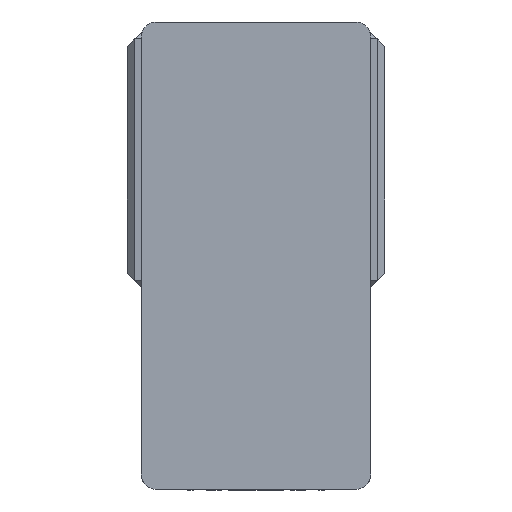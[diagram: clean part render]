
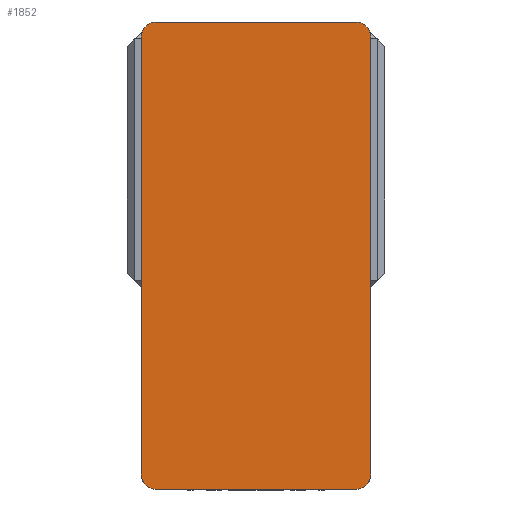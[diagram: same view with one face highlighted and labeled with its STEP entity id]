
A CAD part, left-side view. The second image highlights one B-rep face of the part: STEP entity #1852.
In plain terms, the highlighted planar face has unit normal (-1, 0, 0) as drawn and (0, 0, 1) by its records, which use the part's own axes.
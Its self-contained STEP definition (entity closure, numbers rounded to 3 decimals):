
#19 = CARTESIAN_POINT ( 'NONE',  ( -75., 152.5, 105. ) ) ;
#379 = CARTESIAN_POINT ( 'NONE',  ( 75., -142.5, 105. ) ) ;
#594 = DIRECTION ( 'NONE',  ( 0., 0., 1. ) ) ;
#654 = EDGE_CURVE ( 'NONE', #1589, #4605, #9326, .T. ) ;
#698 = DIRECTION ( 'NONE',  ( 0., 0., 1. ) ) ;
#742 = CARTESIAN_POINT ( 'NONE',  ( 65., 142.5, 105. ) ) ;
#842 = DIRECTION ( 'NONE',  ( 0., 0., 1. ) ) ;
#905 = VERTEX_POINT ( 'NONE', #3144 ) ;
#946 = VERTEX_POINT ( 'NONE', #2362 ) ;
#1219 = VERTEX_POINT ( 'NONE', #4891 ) ;
#1444 = EDGE_CURVE ( 'NONE', #905, #8493, #6843, .T. ) ;
#1509 = CARTESIAN_POINT ( 'NONE',  ( -65., -142.5, 105. ) ) ;
#1582 = DIRECTION ( 'NONE',  ( 1., 0., 0. ) ) ;
#1589 = VERTEX_POINT ( 'NONE', #8714 ) ;
#1609 = DIRECTION ( 'NONE',  ( 1., 0., 0. ) ) ;
#1678 = VECTOR ( 'NONE', #9096, 1000. ) ;
#1710 = ORIENTED_EDGE ( 'NONE', *, *, #8515, .T. ) ;
#1852 = ADVANCED_FACE ( 'NONE', ( #2413 ), #2583, .T. ) ;
#1997 = VERTEX_POINT ( 'NONE', #379 ) ;
#2270 = EDGE_CURVE ( 'NONE', #8493, #1589, #6817, .T. ) ;
#2356 = CARTESIAN_POINT ( 'NONE',  ( -75., -152.5, 105. ) ) ;
#2362 = CARTESIAN_POINT ( 'NONE',  ( 65., 152.5, 105. ) ) ;
#2393 = EDGE_CURVE ( 'NONE', #1219, #1997, #4787, .T. ) ;
#2413 = FACE_OUTER_BOUND ( 'NONE', #8983, .T. ) ;
#2579 = VECTOR ( 'NONE', #2905, 1000. ) ;
#2583 = PLANE ( 'NONE',  #6191 ) ;
#2905 = DIRECTION ( 'NONE',  ( 0., -1., 0. ) ) ;
#3144 = CARTESIAN_POINT ( 'NONE',  ( -65., 152.5, 105. ) ) ;
#3355 = EDGE_CURVE ( 'NONE', #6807, #946, #9289, .T. ) ;
#3368 = CARTESIAN_POINT ( 'NONE',  ( -75., 142.5, 105. ) ) ;
#3448 = CARTESIAN_POINT ( 'NONE',  ( -65., -152.5, 105. ) ) ;
#3670 = ORIENTED_EDGE ( 'NONE', *, *, #1444, .T. ) ;
#4066 = DIRECTION ( 'NONE',  ( 1., 0., 0. ) ) ;
#4173 = CARTESIAN_POINT ( 'NONE',  ( 75., 152.5, 105. ) ) ;
#4241 = AXIS2_PLACEMENT_3D ( 'NONE', #742, #6538, #1582 ) ;
#4315 = CARTESIAN_POINT ( 'NONE',  ( -65., 142.5, 105. ) ) ;
#4430 = EDGE_CURVE ( 'NONE', #4605, #1219, #9734, .T. ) ;
#4546 = VECTOR ( 'NONE', #9127, 1000. ) ;
#4599 = CARTESIAN_POINT ( 'NONE',  ( -75., 152.5, 105. ) ) ;
#4605 = VERTEX_POINT ( 'NONE', #3448 ) ;
#4763 = EDGE_CURVE ( 'NONE', #1997, #6807, #8293, .T. ) ;
#4787 = CIRCLE ( 'NONE', #5614, 10. ) ;
#4891 = CARTESIAN_POINT ( 'NONE',  ( 65., -152.5, 105. ) ) ;
#4979 = ORIENTED_EDGE ( 'NONE', *, *, #654, .T. ) ;
#5402 = ORIENTED_EDGE ( 'NONE', *, *, #4763, .T. ) ;
#5592 = CARTESIAN_POINT ( 'NONE',  ( 65., -142.5, 105. ) ) ;
#5614 = AXIS2_PLACEMENT_3D ( 'NONE', #5592, #594, #6390 ) ;
#5627 = DIRECTION ( 'NONE',  ( 1., 0., 0. ) ) ;
#6191 = AXIS2_PLACEMENT_3D ( 'NONE', #8356, #698, #6691 ) ;
#6317 = ORIENTED_EDGE ( 'NONE', *, *, #2393, .T. ) ;
#6390 = DIRECTION ( 'NONE',  ( 1., 0., 0. ) ) ;
#6538 = DIRECTION ( 'NONE',  ( 0., 0., 1. ) ) ;
#6691 = DIRECTION ( 'NONE',  ( 1., 0., 0. ) ) ;
#6706 = LINE ( 'NONE', #19, #4546 ) ;
#6807 = VERTEX_POINT ( 'NONE', #8977 ) ;
#6817 = LINE ( 'NONE', #4599, #2579 ) ;
#6843 = CIRCLE ( 'NONE', #8236, 10. ) ;
#7850 = ORIENTED_EDGE ( 'NONE', *, *, #2270, .T. ) ;
#8017 = AXIS2_PLACEMENT_3D ( 'NONE', #1509, #8290, #5627 ) ;
#8236 = AXIS2_PLACEMENT_3D ( 'NONE', #4315, #842, #1609 ) ;
#8290 = DIRECTION ( 'NONE',  ( 0., 0., 1. ) ) ;
#8293 = LINE ( 'NONE', #4173, #1678 ) ;
#8356 = CARTESIAN_POINT ( 'NONE',  ( 0., 0., 105. ) ) ;
#8493 = VERTEX_POINT ( 'NONE', #3368 ) ;
#8515 = EDGE_CURVE ( 'NONE', #946, #905, #6706, .T. ) ;
#8684 = VECTOR ( 'NONE', #4066, 1000. ) ;
#8714 = CARTESIAN_POINT ( 'NONE',  ( -75., -142.5, 105. ) ) ;
#8977 = CARTESIAN_POINT ( 'NONE',  ( 75., 142.5, 105. ) ) ;
#8983 = EDGE_LOOP ( 'NONE', ( #10764, #6317, #5402, #10431, #1710, #3670, #7850, #4979 ) ) ;
#9096 = DIRECTION ( 'NONE',  ( 0., 1., 0. ) ) ;
#9127 = DIRECTION ( 'NONE',  ( -1., 0., 0. ) ) ;
#9289 = CIRCLE ( 'NONE', #4241, 10. ) ;
#9326 = CIRCLE ( 'NONE', #8017, 10. ) ;
#9734 = LINE ( 'NONE', #2356, #8684 ) ;
#10431 = ORIENTED_EDGE ( 'NONE', *, *, #3355, .T. ) ;
#10764 = ORIENTED_EDGE ( 'NONE', *, *, #4430, .T. ) ;
